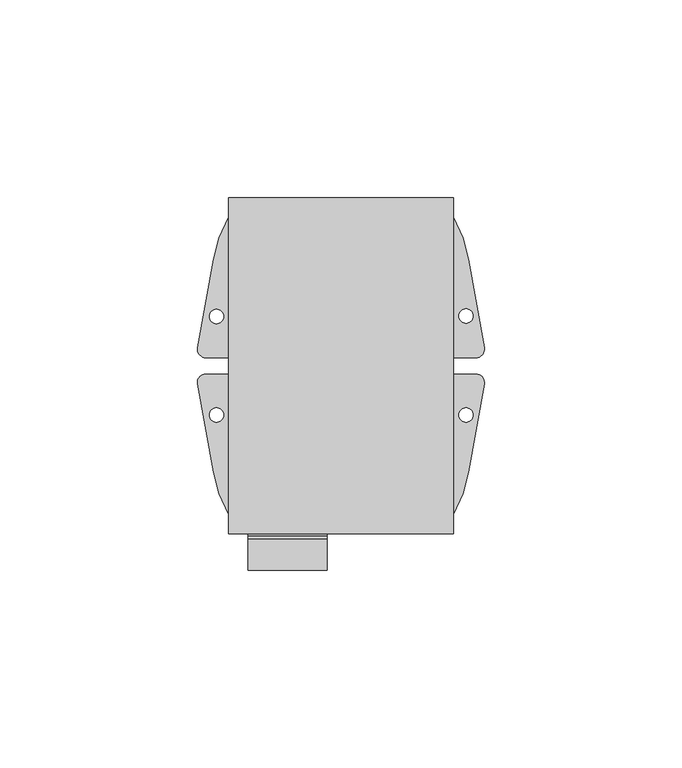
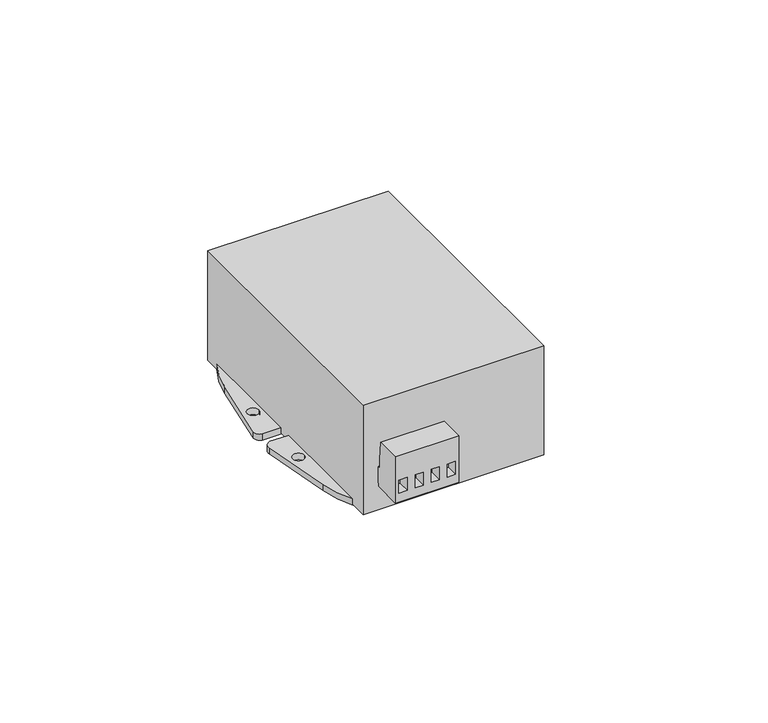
"""IFC4 building model written with IfcOpenShell, lengths in millimetres: proxy geometry, A KIT POE 802 3AF MIT-14D : A KIT POE 802 3AF MIT-14D."""

from ifc_helpers import new_model, si_unit, point, frame_2d, origin, origin_with_axes, place, context, project, spatial, polyline, circle_curve, trimmed, segment, composite_curve, outline, extrude, faceted_brep, source, transform, mapped, element, save


def electrical_equipment_dab1845e(model_context):
    return source(origin(), model_context, "Body", "SolidModel", [
        faceted_brep([(-3.559299, -37.8732462, 7.7), (-3.559299, -37.8732462, 8.6917903), (-3.559299, -29.0734747, 8.6917903), (-3.559299, -29.0734747, 14.2), (-3.559299, -38.4734747, 14.2), (-3.559299, -38.4734747, 17.2), (-3.559299, -39.0716082, 23.1314903), (-3.559299, -47.0734747, 23.1314903), (-3.559299, -47.0734747, 7.7), (-23.559299, -37.8732462, 7.7), (-23.559299, -47.0734747, 7.7), (-23.559299, -47.0734747, 23.1314903), (-23.559299, -39.0716082, 23.1314903), (-23.559299, -38.4734747, 17.2), (-23.559299, -38.4734747, 14.2), (-23.559299, -29.0734747, 14.2), (-23.559299, -29.0734747, 8.6917903), (-23.559299, -37.8732462, 8.6917903), (-7.209299, -47.0734747, 10.7), (-7.209299, -47.0734747, 15.0), (-4.669299, -47.0734747, 15.0), (-4.669299, -47.0734747, 10.7), (-12.289299, -47.0734747, 10.7), (-12.289299, -47.0734747, 15.0), (-9.749299, -47.0734747, 15.0), (-9.749299, -47.0734747, 10.7), (-17.369299, -47.0734747, 10.7), (-17.369299, -47.0734747, 15.0), (-14.829299, -47.0734747, 15.0), (-14.829299, -47.0734747, 10.7), (-22.449299, -47.0734747, 10.7), (-22.449299, -47.0734747, 15.0), (-19.909299, -47.0734747, 15.0), (-19.909299, -47.0734747, 10.7), (-7.209299, -43.0734747, 15.0), (-7.209299, -43.0734747, 10.7), (-4.669299, -43.0734747, 10.7), (-4.669299, -43.0734747, 15.0), (-12.289299, -43.0734747, 15.0), (-12.289299, -43.0734747, 10.7), (-9.749299, -43.0734747, 10.7), (-9.749299, -43.0734747, 15.0), (-17.369299, -43.0734747, 15.0), (-17.369299, -43.0734747, 10.7), (-14.829299, -43.0734747, 10.7), (-14.829299, -43.0734747, 15.0), (-22.449299, -43.0734747, 15.0), (-22.449299, -43.0734747, 10.7), (-19.909299, -43.0734747, 10.7), (-19.909299, -43.0734747, 15.0)], [[[0, 1, 2, 3, 4, 5, 6, 7, 8]], [[9, 10, 11, 12, 13, 14, 15, 16, 17]], [[1, 0, 9, 17]], [[2, 1, 17, 16]], [[3, 2, 16, 15]], [[4, 3, 15, 14]], [[5, 4, 14, 13]], [[6, 5, 13, 12]], [[7, 6, 12, 11]], [[8, 7, 11, 10], [18, 19, 20, 21], [22, 23, 24, 25], [26, 27, 28, 29], [30, 31, 32, 33]], [[0, 8, 10, 9]], [[34, 35, 36, 37]], [[38, 39, 40, 41]], [[42, 43, 44, 45]], [[46, 47, 48, 49]], [[35, 34, 19, 18]], [[36, 35, 18, 21]], [[37, 36, 21, 20]], [[34, 37, 20, 19]], [[39, 38, 23, 22]], [[40, 39, 22, 25]], [[41, 40, 25, 24]], [[38, 41, 24, 23]], [[43, 42, 27, 26]], [[44, 43, 26, 29]], [[45, 44, 29, 28]], [[42, 45, 28, 27]], [[47, 46, 31, 30]], [[48, 47, 30, 33]], [[49, 48, 33, 32]], [[46, 49, 32, 31]]]),
        extrude(outline(polyline([(28.4874219, 47.0734747), (28.4874219, -37.8732462), (-28.459299, -37.8732462), (-28.459299, 47.0734747), (28.4874219, 47.0734747)])), origin_with_axes(), (0.0, 0.0, 1.0), 36.5),
        extrude(outline(composite_curve([segment(polyline([(-28.459299, 42.1001142), (-28.459299, 6.7001142), (-34.5755549, 6.7001142)]), True, "CONTINUOUS"), segment(trimmed(circle_curve(frame_2d((-34.1791587, 8.7456996)), 2.0836385), [point((-34.5755549, 6.7001142))], [point((-36.231142, 9.1075196))], False, "CARTESIAN"), True, "CONTINUOUS"), segment(polyline([(-36.231142, 9.1075196), (-32.2782164, 31.525675)]), True, "CONTINUOUS"), segment(trimmed(circle_curve(frame_2d((0.0605019, 25.8234865)), 32.8375952), [point((-32.2782164, 31.525675))], [point((-28.459299, 42.1001142))], False, "CARTESIAN"), True, "CONTINUOUS")], self_intersect=False), holes=[composite_curve([segment(trimmed(circle_curve(frame_2d((-31.4905388, 17.0753136)), 1.8), [point((-33.2905388, 17.0753136))], [point((-29.6905388, 17.0753136))], True, "CARTESIAN"), True, "CONTINUOUS"), segment(trimmed(circle_curve(frame_2d((-31.4905388, 17.0753136)), 1.8), [point((-29.6905388, 17.0753136))], [point((-33.2905388, 17.0753136))], True, "CARTESIAN"), True, "CONTINUOUS")], self_intersect=False)]), origin_with_axes(), (0.0, 0.0, 1.0), 2.1),
        extrude(outline(composite_curve([segment(trimmed(circle_curve(frame_2d((0.0605019, -16.623258)), 32.8375952), [point((-28.459299, -32.8998858))], [point((-32.2782164, -22.3254466))], False, "CARTESIAN"), True, "CONTINUOUS"), segment(polyline([(-32.2782164, -22.3254466), (-36.231142, 0.0927088)]), True, "CONTINUOUS"), segment(trimmed(circle_curve(frame_2d((-34.1791587, 0.4545289)), 2.0836385), [point((-36.231142, 0.0927088))], [point((-34.5755549, 2.5001142))], False, "CARTESIAN"), True, "CONTINUOUS"), segment(polyline([(-34.5755549, 2.5001142), (-28.459299, 2.5001142), (-28.459299, -32.8998858)]), True, "CONTINUOUS")], self_intersect=False), holes=[composite_curve([segment(trimmed(circle_curve(frame_2d((-31.4905388, -7.834138)), 1.8), [point((-33.2905388, -7.834138))], [point((-29.6905388, -7.834138))], True, "CARTESIAN"), True, "CONTINUOUS"), segment(trimmed(circle_curve(frame_2d((-31.4905388, -7.834138)), 1.8), [point((-29.6905388, -7.834138))], [point((-33.2905388, -7.834138))], True, "CARTESIAN"), True, "CONTINUOUS")], self_intersect=False)]), origin_with_axes(), (0.0, 0.0, 1.0), 2.1),
        extrude(outline(composite_curve([segment(trimmed(circle_curve(frame_2d((-0.0605019, 25.8234865)), 32.8375952), [point((28.459299, 42.1001142))], [point((32.2782164, 31.525675))], False, "CARTESIAN"), True, "CONTINUOUS"), segment(polyline([(32.2782164, 31.525675), (36.231142, 9.1075196)]), True, "CONTINUOUS"), segment(trimmed(circle_curve(frame_2d((34.1791587, 8.7456996)), 2.0836385), [point((36.231142, 9.1075196))], [point((34.5755549, 6.7001142))], False, "CARTESIAN"), True, "CONTINUOUS"), segment(polyline([(34.5755549, 6.7001142), (28.459299, 6.7001142), (28.459299, 42.1001142)]), True, "CONTINUOUS")], self_intersect=False), holes=[composite_curve([segment(trimmed(circle_curve(frame_2d((31.6115426, 17.1906165)), 1.8), [point((29.8115426, 17.1906165))], [point((33.4115426, 17.1906165))], True, "CARTESIAN"), True, "CONTINUOUS"), segment(trimmed(circle_curve(frame_2d((31.6115426, 17.1906165)), 1.8), [point((33.4115426, 17.1906165))], [point((29.8115426, 17.1906165))], True, "CARTESIAN"), True, "CONTINUOUS")], self_intersect=False)]), origin_with_axes(), (0.0, 0.0, 1.0), 2.1),
        extrude(outline(composite_curve([segment(polyline([(28.459299, -32.8998858), (28.459299, 2.5001142), (34.5755549, 2.5001142)]), True, "CONTINUOUS"), segment(trimmed(circle_curve(frame_2d((34.1791587, 0.4545289)), 2.0836385), [point((34.5755549, 2.5001142))], [point((36.231142, 0.0927088))], False, "CARTESIAN"), True, "CONTINUOUS"), segment(polyline([(36.231142, 0.0927088), (32.2782164, -22.3254466)]), True, "CONTINUOUS"), segment(trimmed(circle_curve(frame_2d((-0.0605019, -16.623258)), 32.8375952), [point((32.2782164, -22.3254466))], [point((28.459299, -32.8998858))], False, "CARTESIAN"), True, "CONTINUOUS")], self_intersect=False), holes=[composite_curve([segment(trimmed(circle_curve(frame_2d((31.6115426, -7.834138)), 1.8), [point((29.8115426, -7.834138))], [point((33.4115426, -7.834138))], True, "CARTESIAN"), True, "CONTINUOUS"), segment(trimmed(circle_curve(frame_2d((31.6115426, -7.834138)), 1.8), [point((33.4115426, -7.834138))], [point((29.8115426, -7.834138))], True, "CARTESIAN"), True, "CONTINUOUS")], self_intersect=False)]), origin_with_axes(), (0.0, 0.0, 1.0), 2.1),
    ])


if __name__ == "__main__":
    model = new_model("IFC4")
    model_context = context("Model", 3, world=origin())
    ifc_project = project(units=[si_unit("LENGTHUNIT", "METRE", prefix="MILLI")], contexts=[model_context])
    site = spatial("IfcSite", under=ifc_project)
    building = spatial("IfcBuilding", under=site)
    placement = place(None, origin())
    electrical_equipment_shape = electrical_equipment_dab1845e(model_context)
    element("IfcBuildingElementProxy", 1, Name="A KIT POE 802 3AF MIT-14D : A KIT POE 802 3AF MIT-14D", ObjectType="A KIT POE 802 3AF MIT-14D : A KIT POE 802 3AF MIT-14D", at=placement, inside=building, context=model_context, shape_type="MappedRepresentation", body=[
        mapped(electrical_equipment_shape, transform((0.0, 0.0, 0.0), x_axis=(1.0, 0.0, 0.0), y_axis=(0.0, 1.0, 0.0), z_axis=(0.0, 0.0, 1.0))),
    ])
    save(model, "model.ifc")
